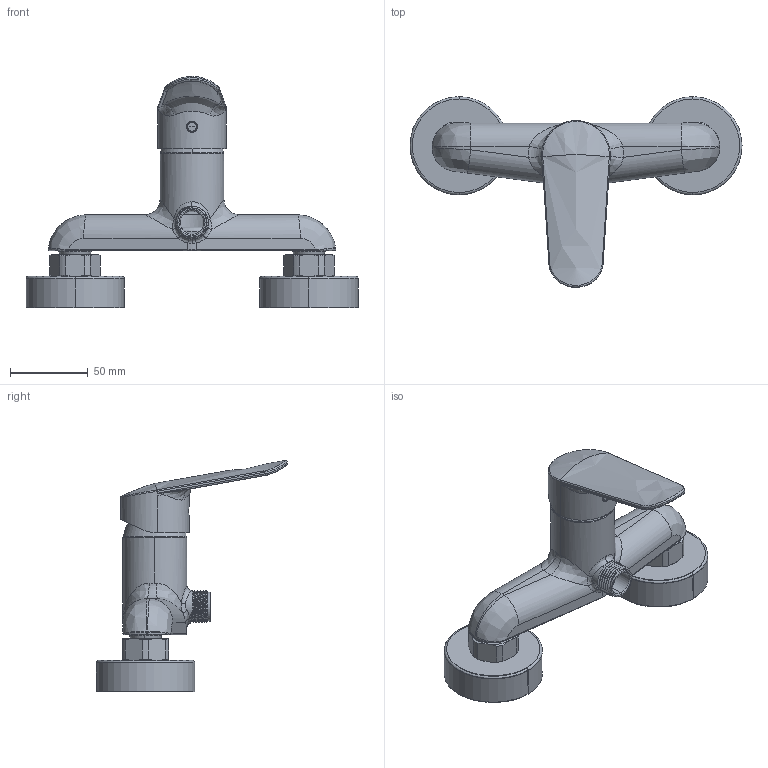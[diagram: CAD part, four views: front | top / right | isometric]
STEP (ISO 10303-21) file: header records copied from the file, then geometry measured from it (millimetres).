
FILE_DESCRIPTION((''),'2;1');
FILE_NAME('F3005_FILE_3D','2017-02-20T',('ivanv'),(''),'CREO PARAMETRIC BY PTC INC, 2015290','CREO PARAMETRIC BY PTC INC, 2015290','');
FILE_SCHEMA(('CONFIG_CONTROL_DESIGN'));
Length unit declared in the file: millimetre
Products named in the file (1): F3005_FILE_3D
Bounding box: 213 x 122.58 x 148.29 mm (x, y, z)
Volume: 123782.4 mm3; surface area: 103063.8 mm2
Topology: 2 solids, 2 shells, 1320 faces, 3448 edges, 2170 vertices
Faces by surface type: plane 677, bspline 260, cylinder 199, cone 107, torus 66, sphere 10, extrusion 1
Entity records: 76448 total; most frequent: CARTESIAN_POINT 46912, ORIENTED_EDGE 6884, DIRECTION 5029, EDGE_CURVE 3442, VERTEX_POINT 2170, AXIS2_PLACEMENT_3D 1737, VECTOR 1555, LINE 1554
